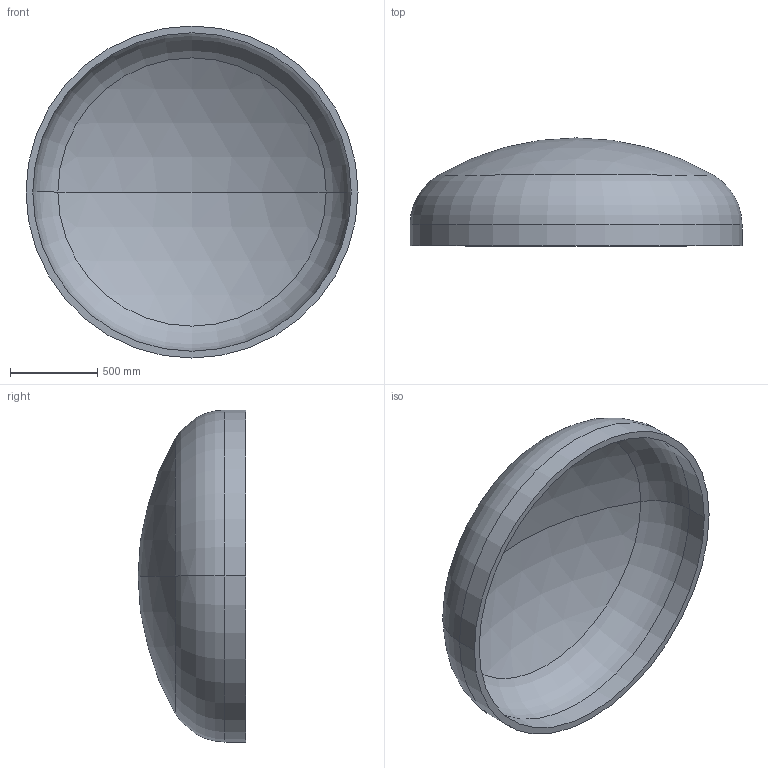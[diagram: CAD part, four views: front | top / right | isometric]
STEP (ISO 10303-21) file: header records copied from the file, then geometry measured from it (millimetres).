
FILE_DESCRIPTION (( 'STEP AP203' ), '1' );
FILE_NAME ('DIN 28013 Korbbogenform_-_Boden DIN 28013 - 1900 x 120 - I - s=39.step', '2016-07-01T13:08:04', ( '' ), ( '' ), 'SwSTEP 2.0', 'SolidWorks 2013', '' );
FILE_SCHEMA (( 'CONFIG_CONTROL_DESIGN' ));
Length unit declared in the file: millimetre
Products named in the file (1): DIN 28013 Korbbogenform_-_Boden DIN 28013 - 1900 x 120 - I - s=39
Bounding box: 1900 x 617.28 x 1900 mm (x, y, z)
Volume: 176163398 mm3; surface area: 9265216.8 mm2
Topology: 1 solids, 1 shells, 13 faces, 24 edges, 14 vertices
Faces by surface type: torus 4, cylinder 4, sphere 4, plane 1
Entity records: 407 total; most frequent: DIRECTION 72, CARTESIAN_POINT 52, ORIENTED_EDGE 48, AXIS2_PLACEMENT_3D 34, EDGE_CURVE 24, CIRCLE 20, EDGE_LOOP 14, VERTEX_POINT 14
